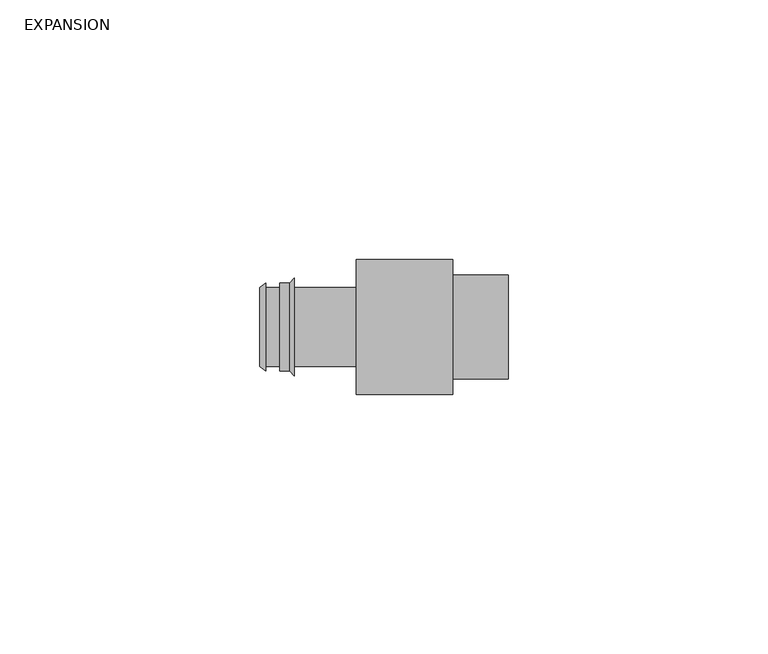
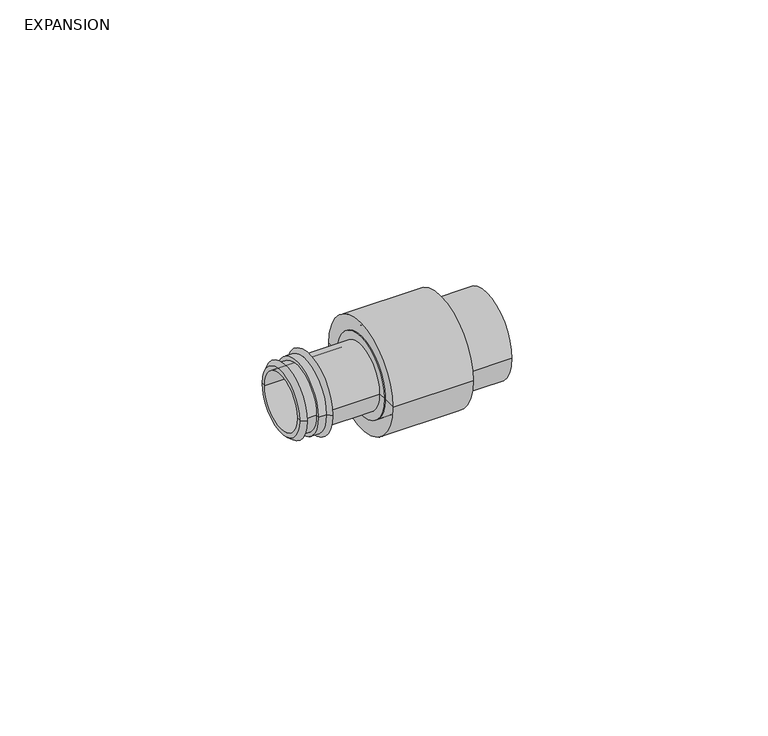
"""IFC4 building model written with IfcOpenShell, lengths in millimetres: valve geometry, Aquatherm - PEX Adapter Expansion : EXPANSION."""

from ifc_helpers import new_model, si_unit, frame, origin, place, context, project, spatial, polyline, circle_curve, source, transform, mapped, element, save
from ifc_brep_helpers import plane_surface, cylinder_surface, revolved_surface, advanced_brep


def expansion_13648c2b(model_context):
    return source(origin(), model_context, "Body", "AdvancedBrep", [
        advanced_brep(
        [(-17.399, -7.62, 0.0), (-17.399, 7.62, 0.0), (-14.732, 7.62, 0.0), (-14.732, -7.62, 0.0), (-17.399, -8.509, 0.0), (-17.399, 8.509, 0.0), (3.175, -6.604, 0.0), (3.175, 6.604, 0.0), (-18.542, 6.604, 0.0), (-18.542, -6.604, 0.0), (3.175, -9.525, 0.0), (3.175, 9.525, 0.0), (0.0, -9.525, 0.0), (0.0, 9.525, 0.0), (0.0, -7.62, 0.0), (0.0, 7.62, 0.0), (-11.938, -7.62, 0.0), (-11.938, 7.62, 0.0), (-11.938, -9.398, 0.0), (-11.938, 9.398, 0.0), (-12.827, -8.509, 0.0), (-12.827, 8.509, 0.0), (-14.732, -8.509, 0.0), (-14.732, 8.509, 0.0), (-18.542, -7.62, 0.0), (-18.542, 7.62, 0.0)],
        [
            (0, 1, circle_curve(frame((-17.399, 0.0, 0.0), z_axis=(1.0, 0.0, 0.0), x_axis=(0.0, 1.0, 0.0)), 7.62)),
            (1, 2),
            (2, 3, circle_curve(frame((-14.732, 0.0, 0.0), z_axis=(-1.0, 0.0, 0.0), x_axis=(0.0, 1.0, 0.0)), 7.62)),
            (3, 0),
            (1, 0, circle_curve(frame((-17.399, 0.0, 0.0), z_axis=(1.0, 0.0, 0.0), x_axis=(0.0, 1.0, 0.0)), 7.62)),
            (3, 2, circle_curve(frame((-14.732, 0.0, 0.0), z_axis=(-1.0, 0.0, 0.0), x_axis=(0.0, 1.0, 0.0)), 7.62)),
            (4, 5, circle_curve(frame((-17.399, 0.0, 0.0), z_axis=(1.0, 0.0, 0.0), x_axis=(0.0, 1.0, 0.0)), 8.509)),
            (5, 1),
            (0, 4),
            (5, 4, circle_curve(frame((-17.399, 0.0, 0.0), z_axis=(1.0, 0.0, 0.0), x_axis=(0.0, 1.0, 0.0)), 8.509)),
            (6, 7, circle_curve(frame((3.175, 0.0, 0.0), z_axis=(1.0, 0.0, 0.0), x_axis=(0.0, 1.0, 0.0)), 6.604)),
            (7, 8),
            (8, 9, circle_curve(frame((-18.542, 0.0, 0.0), z_axis=(-1.0, 0.0, 0.0), x_axis=(0.0, 1.0, 0.0)), 6.604)),
            (9, 6),
            (7, 6, circle_curve(frame((3.175, 0.0, 0.0), z_axis=(1.0, 0.0, 0.0), x_axis=(0.0, 1.0, 0.0)), 6.604)),
            (9, 8, circle_curve(frame((-18.542, 0.0, 0.0), z_axis=(-1.0, 0.0, 0.0), x_axis=(0.0, 1.0, 0.0)), 6.604)),
            (10, 11, circle_curve(frame((3.175, 0.0, 0.0), z_axis=(1.0, 0.0, 0.0), x_axis=(0.0, 1.0, 0.0)), 9.525)),
            (11, 7),
            (6, 10),
            (11, 10, circle_curve(frame((3.175, 0.0, 0.0), z_axis=(1.0, 0.0, 0.0), x_axis=(0.0, 1.0, 0.0)), 9.525)),
            (12, 13, circle_curve(frame((0.0, 0.0, 0.0), z_axis=(1.0, 0.0, 0.0), x_axis=(0.0, 1.0, 0.0)), 9.525)),
            (13, 11),
            (10, 12),
            (13, 12, circle_curve(frame((0.0, 0.0, 0.0), z_axis=(1.0, 0.0, 0.0), x_axis=(0.0, 1.0, 0.0)), 9.525)),
            (14, 15, circle_curve(frame((0.0, 0.0, 0.0), z_axis=(1.0, 0.0, 0.0), x_axis=(0.0, 1.0, 0.0)), 7.62)),
            (15, 13),
            (12, 14),
            (15, 14, circle_curve(frame((0.0, 0.0, 0.0), z_axis=(1.0, 0.0, 0.0), x_axis=(0.0, 1.0, 0.0)), 7.62)),
            (16, 17, circle_curve(frame((-11.938, 0.0, 0.0), z_axis=(1.0, 0.0, 0.0), x_axis=(0.0, 1.0, 0.0)), 7.62)),
            (17, 15),
            (14, 16),
            (17, 16, circle_curve(frame((-11.938, 0.0, 0.0), z_axis=(1.0, 0.0, 0.0), x_axis=(0.0, 1.0, 0.0)), 7.62)),
            (18, 19, circle_curve(frame((-11.938, 0.0, 0.0), z_axis=(1.0, 0.0, 0.0), x_axis=(0.0, 1.0, 0.0)), 9.398)),
            (19, 17),
            (16, 18),
            (19, 18, circle_curve(frame((-11.938, 0.0, 0.0), z_axis=(1.0, 0.0, 0.0), x_axis=(0.0, 1.0, 0.0)), 9.398)),
            (20, 21, circle_curve(frame((-12.827, 0.0, 0.0), z_axis=(1.0, 0.0, 0.0), x_axis=(0.0, 1.0, 0.0)), 8.509)),
            (21, 19),
            (18, 20),
            (21, 20, circle_curve(frame((-12.827, 0.0, 0.0), z_axis=(1.0, 0.0, 0.0), x_axis=(0.0, 1.0, 0.0)), 8.509)),
            (22, 23, circle_curve(frame((-14.732, 0.0, 0.0), z_axis=(1.0, 0.0, 0.0), x_axis=(0.0, 1.0, 0.0)), 8.509)),
            (23, 21),
            (20, 22),
            (23, 22, circle_curve(frame((-14.732, 0.0, 0.0), z_axis=(1.0, 0.0, 0.0), x_axis=(0.0, 1.0, 0.0)), 8.509)),
            (2, 23),
            (22, 3),
            (24, 25, circle_curve(frame((-18.542, 0.0, 0.0), z_axis=(1.0, 0.0, 0.0), x_axis=(0.0, 1.0, 0.0)), 7.62)),
            (25, 5),
            (4, 24),
            (25, 24, circle_curve(frame((-18.542, 0.0, 0.0), z_axis=(1.0, 0.0, 0.0), x_axis=(0.0, 1.0, 0.0)), 7.62)),
            (8, 25),
            (24, 9),
        ],
        [
            cylinder_surface(frame((-30.099, 0.0, 0.0), z_axis=(-1.0, 0.0, 0.0), x_axis=(0.0, 1.0, 0.0)), 7.62),
            plane_surface(frame((-17.399, 0.0, 0.0), z_axis=(1.0, 0.0, 0.0), x_axis=(0.0, 1.0, 0.0))),
            revolved_surface(polyline([(-18.542, 6.604, 0.0), (3.1750000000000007, 6.604, 0.0)]), (-30.099, 0.0, 0.0), (-1.0, 0.0, 0.0)),
            plane_surface(frame((3.175, 0.0, 0.0), z_axis=(1.0, 0.0, 0.0), x_axis=(0.0, 1.0, 0.0))),
            cylinder_surface(frame((-30.099, 0.0, 0.0), z_axis=(-1.0, 0.0, 0.0), x_axis=(0.0, 1.0, 0.0)), 9.525),
            plane_surface(frame((0.0, 0.0, 0.0), z_axis=(-1.0, 0.0, 0.0), x_axis=(0.0, 1.0, 0.0))),
            plane_surface(frame((-11.938, 0.0, 0.0), z_axis=(1.0, 0.0, 0.0), x_axis=(0.0, 1.0, 0.0))),
            revolved_surface(polyline([(-11.938, 9.398, 0.0), (-12.827, 8.509, 0.0)]), (-30.099, 0.0, 0.0), (-1.0, 0.0, 0.0)),
            cylinder_surface(frame((-30.099, 0.0, 0.0), z_axis=(-1.0, 0.0, 0.0), x_axis=(0.0, 1.0, 0.0)), 8.509),
            plane_surface(frame((-14.732, 0.0, 0.0), z_axis=(-1.0, 0.0, 0.0), x_axis=(0.0, 1.0, 0.0))),
            revolved_surface(polyline([(-17.399, 8.509, 0.0), (-18.542, 7.62, 0.0)]), (-30.099, 0.0, 0.0), (-1.0, 0.0, 0.0)),
            plane_surface(frame((-18.542, 0.0, 0.0), z_axis=(-1.0, 0.0, 0.0), x_axis=(0.0, 1.0, 0.0))),
        ],
        [
            (0, [[1, 2, 3, 4]]),
            (0, [[5, -4, 6, -2]]),
            (1, [[7, 8, -1, 9]]),
            (1, [[10, -9, -5, -8]]),
            (2, [[11, 12, 13, 14]]),
            (2, [[15, -14, 16, -12]]),
            (3, [[17, 18, -11, 19]]),
            (3, [[20, -19, -15, -18]]),
            (4, [[21, 22, -17, 23]]),
            (4, [[24, -23, -20, -22]]),
            (5, [[25, 26, -21, 27]]),
            (5, [[28, -27, -24, -26]]),
            (0, [[29, 30, -25, 31]]),
            (0, [[32, -31, -28, -30]]),
            (6, [[33, 34, -29, 35]]),
            (6, [[36, -35, -32, -34]]),
            (7, [[37, 38, -33, 39]]),
            (7, [[40, -39, -36, -38]]),
            (8, [[41, 42, -37, 43]]),
            (8, [[44, -43, -40, -42]]),
            (9, [[-3, 45, -41, 46]]),
            (9, [[-6, -46, -44, -45]]),
            (10, [[47, 48, -7, 49]]),
            (10, [[50, -49, -10, -48]]),
            (11, [[-13, 51, -47, 52]]),
            (11, [[-16, -52, -50, -51]]),
        ],
    ),
        advanced_brep(
        [(0.0, -12.954, 0.0), (0.0, 12.954, 0.0), (18.542, 12.954, 0.0), (18.542, -12.954, 0.0), (0.0, -9.525, 0.0), (0.0, 9.525, 0.0), (3.175, -9.525, 0.0), (3.175, 9.525, 0.0), (3.175, -6.604, 0.0), (3.175, 6.604, 0.0), (29.21, -6.604, 0.0), (29.21, 6.604, 0.0), (29.21, -10.033, 0.0), (29.21, 10.033, 0.0), (18.542, -10.033, 0.0), (18.542, 10.033, 0.0)],
        [
            (0, 1, circle_curve(frame((0.0, 0.0, 0.0), z_axis=(1.0, 0.0, 0.0), x_axis=(0.0, 1.0, 0.0)), 12.954)),
            (1, 2),
            (2, 3, circle_curve(frame((18.542, 0.0, 0.0), z_axis=(-1.0, 0.0, 0.0), x_axis=(0.0, 1.0, 0.0)), 12.954)),
            (3, 0),
            (1, 0, circle_curve(frame((0.0, 0.0, 0.0), z_axis=(1.0, 0.0, 0.0), x_axis=(0.0, 1.0, 0.0)), 12.954)),
            (3, 2, circle_curve(frame((18.542, 0.0, 0.0), z_axis=(-1.0, 0.0, 0.0), x_axis=(0.0, 1.0, 0.0)), 12.954)),
            (4, 5, circle_curve(frame((0.0, 0.0, 0.0), z_axis=(1.0, 0.0, 0.0), x_axis=(0.0, 1.0, 0.0)), 9.525)),
            (5, 1),
            (0, 4),
            (5, 4, circle_curve(frame((0.0, 0.0, 0.0), z_axis=(1.0, 0.0, 0.0), x_axis=(0.0, 1.0, 0.0)), 9.525)),
            (6, 7, circle_curve(frame((3.175, 0.0, 0.0), z_axis=(1.0, 0.0, 0.0), x_axis=(0.0, 1.0, 0.0)), 9.525)),
            (7, 5),
            (4, 6),
            (7, 6, circle_curve(frame((3.175, 0.0, 0.0), z_axis=(1.0, 0.0, 0.0), x_axis=(0.0, 1.0, 0.0)), 9.525)),
            (8, 9, circle_curve(frame((3.175, 0.0, 0.0), z_axis=(1.0, 0.0, 0.0), x_axis=(0.0, 1.0, 0.0)), 6.604)),
            (9, 7),
            (6, 8),
            (9, 8, circle_curve(frame((3.175, 0.0, 0.0), z_axis=(1.0, 0.0, 0.0), x_axis=(0.0, 1.0, 0.0)), 6.604)),
            (10, 11, circle_curve(frame((29.21, 0.0, 0.0), z_axis=(1.0, 0.0, 0.0), x_axis=(0.0, 1.0, 0.0)), 6.604)),
            (11, 9),
            (8, 10),
            (11, 10, circle_curve(frame((29.21, 0.0, 0.0), z_axis=(1.0, 0.0, 0.0), x_axis=(0.0, 1.0, 0.0)), 6.604)),
            (12, 13, circle_curve(frame((29.21, 0.0, 0.0), z_axis=(1.0, 0.0, 0.0), x_axis=(0.0, 1.0, 0.0)), 10.033)),
            (13, 11),
            (10, 12),
            (13, 12, circle_curve(frame((29.21, 0.0, 0.0), z_axis=(1.0, 0.0, 0.0), x_axis=(0.0, 1.0, 0.0)), 10.033)),
            (14, 15, circle_curve(frame((18.542, 0.0, 0.0), z_axis=(1.0, 0.0, 0.0), x_axis=(0.0, 1.0, 0.0)), 10.033)),
            (15, 13),
            (12, 14),
            (15, 14, circle_curve(frame((18.542, 0.0, 0.0), z_axis=(1.0, 0.0, 0.0), x_axis=(0.0, 1.0, 0.0)), 10.033)),
            (2, 15),
            (14, 3),
        ],
        [
            cylinder_surface(frame((-43.942, 0.0, 0.0), z_axis=(-1.0, 0.0, 0.0), x_axis=(0.0, 1.0, 0.0)), 12.954),
            plane_surface(frame((0.0, 0.0, 0.0), z_axis=(-1.0, 0.0, 0.0), x_axis=(0.0, 1.0, 0.0))),
            revolved_surface(polyline([(0.0, 9.525, 0.0), (3.174999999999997, 9.525, 0.0)]), (-43.942, 0.0, 0.0), (-1.0, 0.0, 0.0)),
            plane_surface(frame((3.175, 0.0, 0.0), z_axis=(-1.0, 0.0, 0.0), x_axis=(0.0, 1.0, 0.0))),
            revolved_surface(polyline([(3.174999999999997, 6.604, 0.0), (29.21, 6.604, 0.0)]), (-43.942, 0.0, 0.0), (-1.0, 0.0, 0.0)),
            plane_surface(frame((29.21, 0.0, 0.0), z_axis=(1.0, 0.0, 0.0), x_axis=(0.0, 1.0, 0.0))),
            cylinder_surface(frame((-43.942, 0.0, 0.0), z_axis=(-1.0, 0.0, 0.0), x_axis=(0.0, 1.0, 0.0)), 10.033),
            plane_surface(frame((18.542, 0.0, 0.0), z_axis=(1.0, 0.0, 0.0), x_axis=(0.0, 1.0, 0.0))),
        ],
        [
            (0, [[1, 2, 3, 4]]),
            (0, [[5, -4, 6, -2]]),
            (1, [[7, 8, -1, 9]]),
            (1, [[10, -9, -5, -8]]),
            (2, [[11, 12, -7, 13]]),
            (2, [[14, -13, -10, -12]]),
            (3, [[15, 16, -11, 17]]),
            (3, [[18, -17, -14, -16]]),
            (4, [[19, 20, -15, 21]]),
            (4, [[22, -21, -18, -20]]),
            (5, [[23, 24, -19, 25]]),
            (5, [[26, -25, -22, -24]]),
            (6, [[27, 28, -23, 29]]),
            (6, [[30, -29, -26, -28]]),
            (7, [[-3, 31, -27, 32]]),
            (7, [[-6, -32, -30, -31]]),
        ],
    ),
    ])


if __name__ == "__main__":
    model = new_model("IFC4")
    model_context = context("Model", 3, world=origin())
    ifc_project = project(units=[si_unit("LENGTHUNIT", "METRE", prefix="MILLI")], contexts=[model_context])
    site = spatial("IfcSite", under=ifc_project)
    building = spatial("IfcBuilding", under=site)
    placement = place(None, origin())
    expansion_shape = expansion_13648c2b(model_context)
    element("IfcValve", 1, ObjectType="Aquatherm - PEX Adapter Expansion : EXPANSION", at=placement, inside=building, context=model_context, shape_type="MappedRepresentation", body=[
        mapped(expansion_shape, transform((0.0, 0.0, 0.0), x_axis=(1.0, 0.0, 0.0), y_axis=(0.0, 1.0, 0.0), z_axis=(0.0, 0.0, 1.0))),
    ])
    save(model, "model.ifc")
